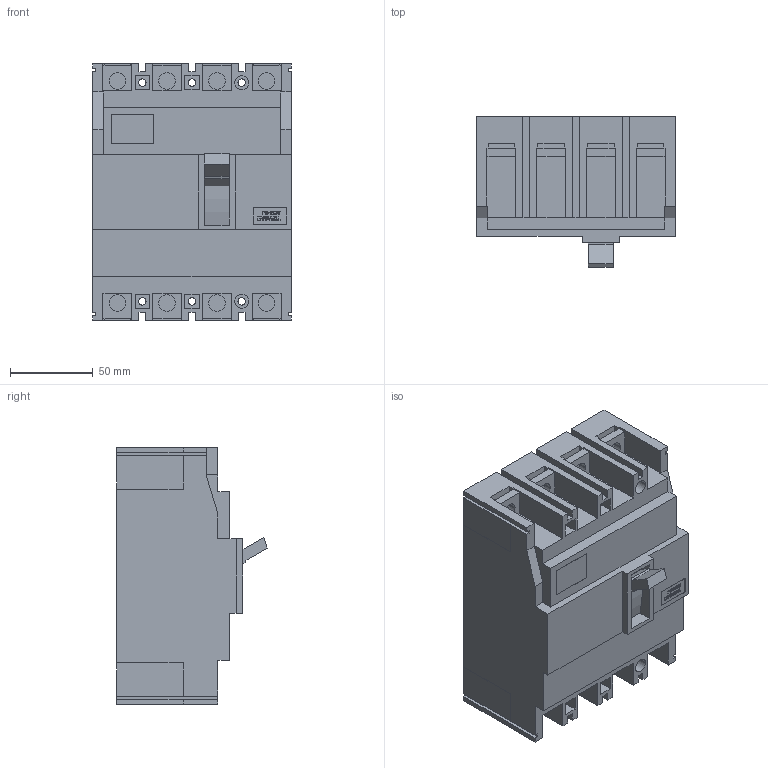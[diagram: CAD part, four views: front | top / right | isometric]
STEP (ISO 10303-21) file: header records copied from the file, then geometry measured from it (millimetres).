
FILE_DESCRIPTION((''),'2;1');
FILE_NAME('S125GJ4125','2012-09-19T',('cmahecha'),(''),'PRO/ENGINEER BY PARAMETRIC TECHNOLOGY CORPORATION, 2010280','PRO/ENGINEER BY PARAMETRIC TECHNOLOGY CORPORATION, 2010280','');
FILE_SCHEMA(('CONFIG_CONTROL_DESIGN'));
Length unit declared in the file: millimetre
Products named in the file (1): S125GJ4125
Bounding box: 120 x 90.8 x 155 mm (x, y, z)
Volume: 1123953.2 mm3; surface area: 103268.7 mm2
Topology: 1 solids, 2 shells, 658 faces, 1837 edges, 1218 vertices
Faces by surface type: plane 616, cylinder 42
Entity records: 20825 total; most frequent: CARTESIAN_POINT 3714, ORIENTED_EDGE 3674, DIRECTION 3239, EDGE_CURVE 1837, VECTOR 1753, LINE 1753, VERTEX_POINT 1218, AXIS2_PLACEMENT_3D 743
